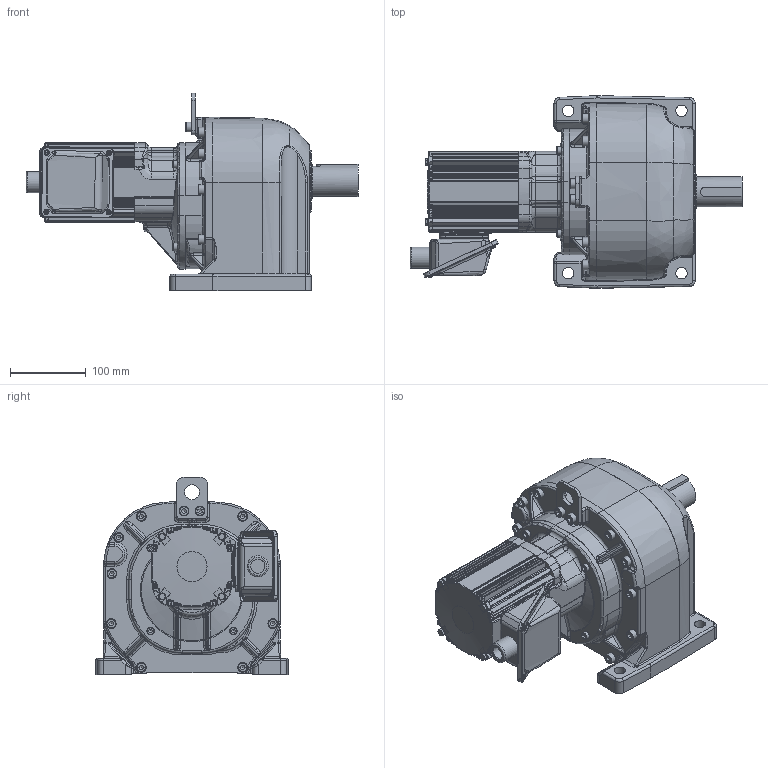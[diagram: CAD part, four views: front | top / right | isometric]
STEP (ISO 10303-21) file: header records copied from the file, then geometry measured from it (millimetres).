
FILE_DESCRIPTION( ( 'Unknown' ), '1' );
FILE_NAME( 'W:/gm/3D-WEB/GV-S/完成品/モータ+減速機/パーツデータ/完成品(GV-S_0.4kw_ブレーキ無_JM_1200).stp', 'Unknown', ( 'Unknown' ), ( 'Unknown' ), 'PSStep 11.0', 'Unknown', ' ' );
FILE_SCHEMA( ( 'AUTOMOTIVE_DESIGN { 1 0 10303 214 1 1 1 1 }' ) );
Length unit declared in the file: millimetre
Products named in the file (2): 減速機(GV-S_脚取付0.4kw_JM
Bounding box: 439.57 x 255 x 262 mm (x, y, z)
Volume: 8312919.9 mm3; surface area: 672516.7 mm2
Topology: 3 solids, 43 shells, 2636 faces, 6500 edges, 3982 vertices
Faces by surface type: plane 961, cylinder 853, bspline 400, torus 282, cone 97, sphere 43
Full cylindrical faces by diameter (mm): 3.3 x4, 3.8 x4, 4 x2, 4.134 x4, 4.5 x8, 4.6 x4, 4.917 x8, 5 x8, 5.5 x4, 5.8 x4, 6 x8, 6.8 x13, 7 x8, 8 x12, 8.2 x1, 9 x10, 9.7 x4, 10 x17, 13 x12, 13.5 x2, 15 x5, 16 x1, 18.631 x2, 20 x1, 22 x1, 28 x1, 36.2 x1, 40 x2, 45 x1, 45.1 x1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
Entity records: 156787 total; most frequent: CARTESIAN_POINT 77420, DIRECTION 12166, ORIENTED_EDGE 11976, EDGE_CURVE 5988, AXIS2_PLACEMENT_3D 4968, VERTEX_POINT 3824, EDGE_LOOP 3053, FACE_OUTER_BOUND 2840
